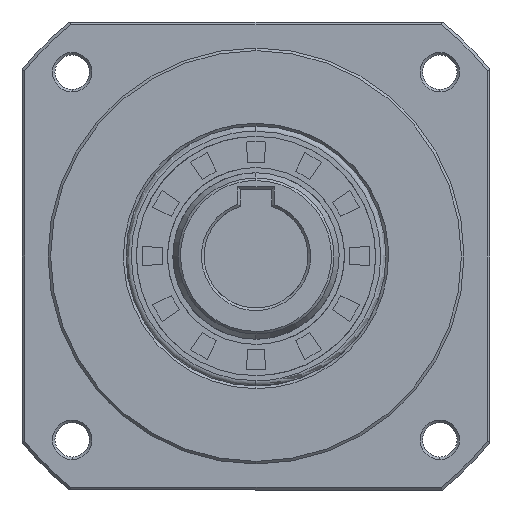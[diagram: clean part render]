
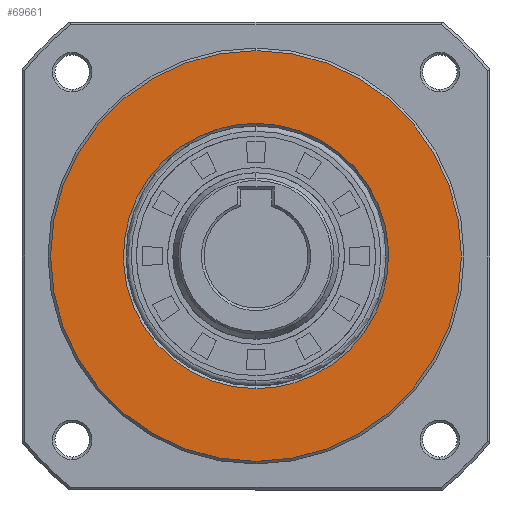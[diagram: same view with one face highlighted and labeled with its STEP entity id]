
A CAD part, left-side view. The second image highlights one B-rep face of the part: STEP entity #69661.
In plain terms, the highlighted planar face has unit normal (-1, 0, 0).
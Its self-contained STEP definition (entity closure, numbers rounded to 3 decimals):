
#2111 = CARTESIAN_POINT ( 'NONE',  ( 0., -25.5, 1.674 ) ) ;
#2775 = CARTESIAN_POINT ( 'NONE',  ( 0., -25.337, -3.333 ) ) ;
#3087 = CARTESIAN_POINT ( 'NONE',  ( 0., -22.918, 11.305 ) ) ;
#3665 = EDGE_CURVE ( 'NONE', #49681, #42876, #54933, .T. ) ;
#6243 = CARTESIAN_POINT ( 'NONE',  ( 0., 15.559, 20.272 ) ) ;
#6886 = CARTESIAN_POINT ( 'NONE',  ( 0., 25.5, -1.674 ) ) ;
#6920 = EDGE_CURVE ( 'NONE', #75328, #94748, #43111, .T. ) ;
#7216 = CARTESIAN_POINT ( 'NONE',  ( 0., 24.683, 6.617 ) ) ;
#8126 = DIRECTION ( 'NONE',  ( 1., 0., 0. ) ) ;
#9700 = CARTESIAN_POINT ( 'NONE',  ( 0., -8.212, 24.2 ) ) ;
#10032 = CARTESIAN_POINT ( 'NONE',  ( 0., -24.2, -8.212 ) ) ;
#13191 = CARTESIAN_POINT ( 'NONE',  ( 0., 0., -25.5 ) ) ;
#13253 = CARTESIAN_POINT ( 'NONE',  ( 0., 0., 39.5 ) ) ;
#13352 = FACE_OUTER_BOUND ( 'NONE', #52296, .T. ) ;
#14151 = CARTESIAN_POINT ( 'NONE',  ( 0., 22.132, 12.775 ) ) ;
#14470 = CARTESIAN_POINT ( 'NONE',  ( 0., 24.2, 8.212 ) ) ;
#14803 = CARTESIAN_POINT ( 'NONE',  ( 0., 25.337, -3.333 ) ) ;
#14852 = CARTESIAN_POINT ( 'NONE',  ( 0., 0., -25.5 ) ) ;
#15397 = DIRECTION ( 'NONE',  ( 0., 0., -1. ) ) ;
#17604 = CARTESIAN_POINT ( 'NONE',  ( 0., -22.133, 12.775 ) ) ;
#18275 = CARTESIAN_POINT ( 'NONE',  ( 0., 0., -25.5 ) ) ;
#19993 = DIRECTION ( 'NONE',  ( 1., 0., 0. ) ) ;
#21388 = CARTESIAN_POINT ( 'NONE',  ( 0., 6.617, 24.683 ) ) ;
#22352 = CARTESIAN_POINT ( 'NONE',  ( 0., 19.215, 16.848 ) ) ;
#24861 = CARTESIAN_POINT ( 'NONE',  ( 0., -19.215, -16.848 ) ) ;
#25807 = CARTESIAN_POINT ( 'NONE',  ( 0., -11.305, 22.918 ) ) ;
#26095 = ORIENTED_EDGE ( 'NONE', *, *, #6920, .T. ) ;
#29612 = DIRECTION ( 'NONE',  ( 1., 0., 0. ) ) ;
#29656 = CARTESIAN_POINT ( 'NONE',  ( 0., 16.848, 19.215 ) ) ;
#29981 = CARTESIAN_POINT ( 'NONE',  ( 0., 22.918, -11.305 ) ) ;
#31806 = CARTESIAN_POINT ( 'NONE',  ( 0., -1.674, 25.5 ) ) ;
#33092 = CARTESIAN_POINT ( 'NONE',  ( 0., -16.848, 19.215 ) ) ;
#37472 = CARTESIAN_POINT ( 'NONE',  ( 0., 24.683, -6.617 ) ) ;
#37820 = CARTESIAN_POINT ( 'NONE',  ( 0., 3.333, -25.337 ) ) ;
#37853 = EDGE_CURVE ( 'NONE', #42876, #49681, #81761, .T. ) ;
#38079 = FACE_BOUND ( 'NONE', #95529, .T. ) ;
#39193 = EDGE_CURVE ( 'NONE', #94748, #75328, #82311, .T. ) ;
#40321 = CARTESIAN_POINT ( 'NONE',  ( 0., -24.2, 8.212 ) ) ;
#40639 = CARTESIAN_POINT ( 'NONE',  ( 0., -24.683, -6.617 ) ) ;
#40954 = CARTESIAN_POINT ( 'NONE',  ( 0., -20.272, 15.559 ) ) ;
#42255 = AXIS2_PLACEMENT_3D ( 'NONE', #73887, #29612, #89072 ) ;
#42876 = VERTEX_POINT ( 'NONE', #13253 ) ;
#43111 = B_SPLINE_CURVE_WITH_KNOTS ( 'NONE', 3,
 ( #69181, #31806, #83068, #62593, #9700, #25807, #78399, #85008, #33092, #85655, #40954, #17604, #3087, #40321, #61952, #69851, #2111, #92872, #2775, #40639, #10032, #86005, #48489, #92550, #24861, #93551, #78085, #93210, #62268, #48151, #70182, #55710, #47180, #18275 ),
 .UNSPECIFIED., .F., .F.,
 ( 4, 2, 2, 2, 2, 2, 2, 2, 2, 2, 2, 2, 2, 2, 2, 2, 4 ),
 ( 0., 0.031, 0.063, 0.094, 0.125, 0.156, 0.188, 0.219, 0.25, 0.281, 0.313, 0.344, 0.375, 0.406, 0.438, 0.469, 0.5 ),
 .UNSPECIFIED. ) ;
#45042 = CARTESIAN_POINT ( 'NONE',  ( 0., 8.212, 24.2 ) ) ;
#47180 = CARTESIAN_POINT ( 'NONE',  ( 0., -1.674, -25.5 ) ) ;
#48151 = CARTESIAN_POINT ( 'NONE',  ( 0., -8.212, -24.2 ) ) ;
#48489 = CARTESIAN_POINT ( 'NONE',  ( 0., -22.132, -12.775 ) ) ;
#49681 = VERTEX_POINT ( 'NONE', #52597 ) ;
#51296 = CARTESIAN_POINT ( 'NONE',  ( 0., 15.559, -20.272 ) ) ;
#51351 = AXIS2_PLACEMENT_3D ( 'NONE', #64976, #19993, #59378 ) ;
#51622 = CARTESIAN_POINT ( 'NONE',  ( 0., 0., 25.5 ) ) ;
#51955 = CARTESIAN_POINT ( 'NONE',  ( 0., 11.305, -22.918 ) ) ;
#52296 = EDGE_LOOP ( 'NONE', ( #72092, #66422 ) ) ;
#52597 = CARTESIAN_POINT ( 'NONE',  ( 0., 0., -39.5 ) ) ;
#52598 = CARTESIAN_POINT ( 'NONE',  ( 0., 12.775, -22.132 ) ) ;
#54933 = CIRCLE ( 'NONE', #42255, 39.5 ) ;
#55710 = CARTESIAN_POINT ( 'NONE',  ( 0., -3.333, -25.337 ) ) ;
#59159 = CARTESIAN_POINT ( 'NONE',  ( 0., 8.212, -24.2 ) ) ;
#59378 = DIRECTION ( 'NONE',  ( 0., 0., -1. ) ) ;
#59475 = CARTESIAN_POINT ( 'NONE',  ( 0., 25.5, 1.674 ) ) ;
#59796 = CARTESIAN_POINT ( 'NONE',  ( 0., 6.617, -24.683 ) ) ;
#61952 = CARTESIAN_POINT ( 'NONE',  ( 0., -24.683, 6.617 ) ) ;
#62268 = CARTESIAN_POINT ( 'NONE',  ( 0., -11.305, -22.918 ) ) ;
#62593 = CARTESIAN_POINT ( 'NONE',  ( 0., -6.617, 24.683 ) ) ;
#64976 = CARTESIAN_POINT ( 'NONE',  ( 0., 0., 0. ) ) ;
#66422 = ORIENTED_EDGE ( 'NONE', *, *, #37853, .F. ) ;
#66690 = CARTESIAN_POINT ( 'NONE',  ( 0., 16.848, -19.215 ) ) ;
#67015 = CARTESIAN_POINT ( 'NONE',  ( 0., 3.333, 25.337 ) ) ;
#67352 = CARTESIAN_POINT ( 'NONE',  ( 0., 22.918, 11.305 ) ) ;
#68601 = CARTESIAN_POINT ( 'NONE',  ( 0., -39.974, 39.974 ) ) ;
#69181 = CARTESIAN_POINT ( 'NONE',  ( 0., 0., 25.5 ) ) ;
#69661 = ADVANCED_FACE ( 'NONE', ( #38079, #13352 ), #74551, .F. ) ;
#69851 = CARTESIAN_POINT ( 'NONE',  ( 0., -25.337, 3.333 ) ) ;
#70182 = CARTESIAN_POINT ( 'NONE',  ( 0., -6.617, -24.683 ) ) ;
#72092 = ORIENTED_EDGE ( 'NONE', *, *, #3665, .F. ) ;
#73887 = CARTESIAN_POINT ( 'NONE',  ( 0., 0., 0. ) ) ;
#74551 = PLANE ( 'NONE',  #76212 ) ;
#74909 = CARTESIAN_POINT ( 'NONE',  ( 0., 11.305, 22.918 ) ) ;
#75231 = CARTESIAN_POINT ( 'NONE',  ( 0., 25.337, 3.333 ) ) ;
#75328 = VERTEX_POINT ( 'NONE', #91075 ) ;
#76212 = AXIS2_PLACEMENT_3D ( 'NONE', #68601, #8126, #15397 ) ;
#78085 = CARTESIAN_POINT ( 'NONE',  ( 0., -15.559, -20.272 ) ) ;
#78399 = CARTESIAN_POINT ( 'NONE',  ( 0., -12.775, 22.132 ) ) ;
#81535 = CARTESIAN_POINT ( 'NONE',  ( 0., 1.675, 25.5 ) ) ;
#81761 = CIRCLE ( 'NONE', #51351, 39.5 ) ;
#82311 = B_SPLINE_CURVE_WITH_KNOTS ( 'NONE', 3,
 ( #13191, #97335, #37820, #59796, #59159, #51955, #52598, #51296, #66690, #96678, #97015, #96351, #29981, #89777, #37472, #14803, #6886, #59475, #75231, #7216, #14470, #67352, #14151, #90410, #22352, #29656, #6243, #89120, #74909, #45042, #21388, #67015, #81535, #51622 ),
 .UNSPECIFIED., .F., .F.,
 ( 4, 2, 2, 2, 2, 2, 2, 2, 2, 2, 2, 2, 2, 2, 2, 2, 4 ),
 ( 0.5, 0.531, 0.563, 0.594, 0.625, 0.656, 0.688, 0.719, 0.75, 0.781, 0.813, 0.844, 0.875, 0.906, 0.938, 0.969, 1. ),
 .UNSPECIFIED. ) ;
#83068 = CARTESIAN_POINT ( 'NONE',  ( 0., -3.333, 25.337 ) ) ;
#85008 = CARTESIAN_POINT ( 'NONE',  ( 0., -15.559, 20.272 ) ) ;
#85655 = CARTESIAN_POINT ( 'NONE',  ( 0., -19.215, 16.848 ) ) ;
#85686 = ORIENTED_EDGE ( 'NONE', *, *, #39193, .T. ) ;
#86005 = CARTESIAN_POINT ( 'NONE',  ( 0., -22.918, -11.305 ) ) ;
#89072 = DIRECTION ( 'NONE',  ( 0., 0., -1. ) ) ;
#89120 = CARTESIAN_POINT ( 'NONE',  ( 0., 12.775, 22.133 ) ) ;
#89777 = CARTESIAN_POINT ( 'NONE',  ( 0., 24.2, -8.212 ) ) ;
#90410 = CARTESIAN_POINT ( 'NONE',  ( 0., 20.272, 15.559 ) ) ;
#91075 = CARTESIAN_POINT ( 'NONE',  ( 0., 0., 25.5 ) ) ;
#92550 = CARTESIAN_POINT ( 'NONE',  ( 0., -20.272, -15.559 ) ) ;
#92872 = CARTESIAN_POINT ( 'NONE',  ( 0., -25.5, -1.674 ) ) ;
#93210 = CARTESIAN_POINT ( 'NONE',  ( 0., -12.775, -22.133 ) ) ;
#93551 = CARTESIAN_POINT ( 'NONE',  ( 0., -16.848, -19.215 ) ) ;
#94748 = VERTEX_POINT ( 'NONE', #14852 ) ;
#95529 = EDGE_LOOP ( 'NONE', ( #26095, #85686 ) ) ;
#96351 = CARTESIAN_POINT ( 'NONE',  ( 0., 22.133, -12.775 ) ) ;
#96678 = CARTESIAN_POINT ( 'NONE',  ( 0., 19.215, -16.848 ) ) ;
#97015 = CARTESIAN_POINT ( 'NONE',  ( 0., 20.272, -15.559 ) ) ;
#97335 = CARTESIAN_POINT ( 'NONE',  ( 0., 1.674, -25.5 ) ) ;
